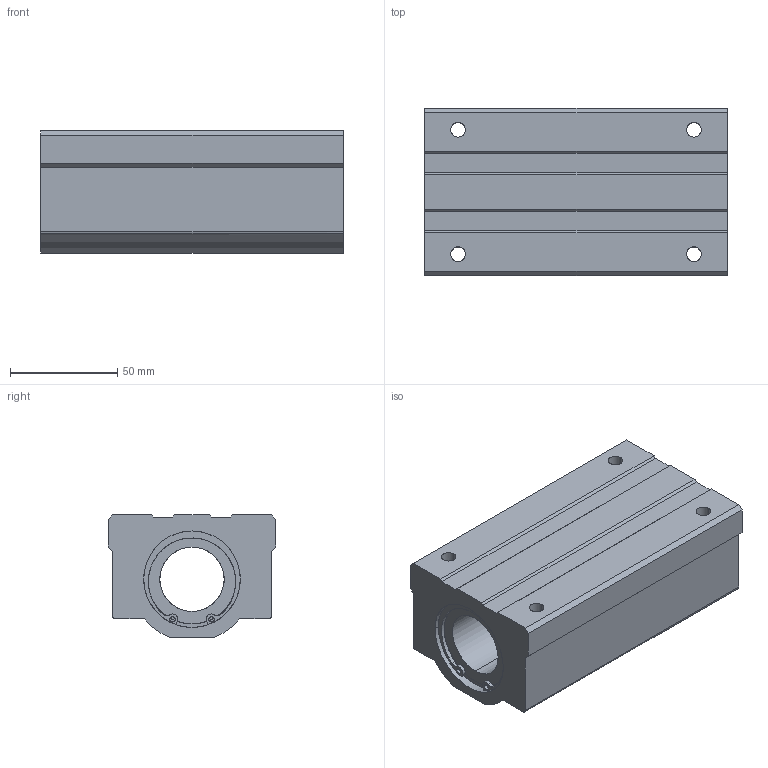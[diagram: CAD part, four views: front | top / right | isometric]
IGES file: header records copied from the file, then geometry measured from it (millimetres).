
Global section: file name: No Iges File Name specified; native system: AutoDesk Inventor R10; preprocessor: AutoDesk Inventor Iges Exporter R10; author: No Author specified; organization: No Organization specified; date: 20101216.173734; units: millimetre
Bounding box: 141 x 78 x 57 mm (x, y, z)
Surface area: 61850.3 mm2 (no closed solid volume)
Topology: 0 solids, 0 shells, 102 faces, 708 edges, 708 vertices
Faces by surface type: bspline 102
